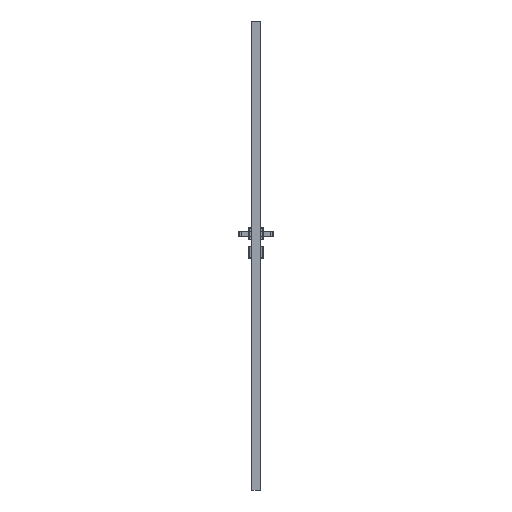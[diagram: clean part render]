
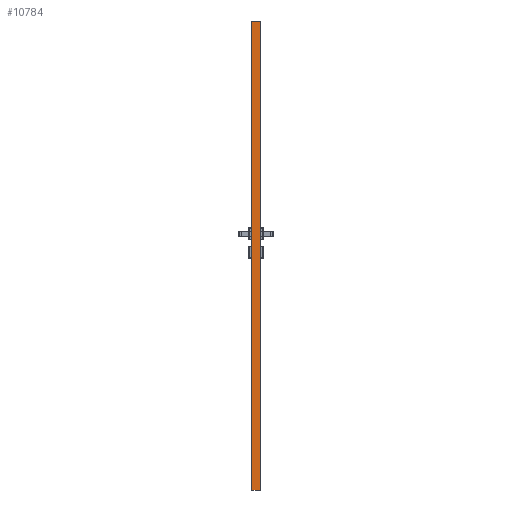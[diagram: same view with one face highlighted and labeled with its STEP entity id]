
A CAD part, left-side view. The second image highlights one B-rep face of the part: STEP entity #10784.
In plain terms, the highlighted planar face has unit normal (-1, 0, 0).
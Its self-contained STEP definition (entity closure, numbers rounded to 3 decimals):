
#6490=FACE_OUTER_BOUND('',#18509,.T.);
#10784=ADVANCED_FACE('',(#6490),#14378,.F.);
#14378=PLANE('',#75180);
#18509=EDGE_LOOP('',(#27709,#27710,#27711,#27712,#27713,#27714));
#27709=ORIENTED_EDGE('',*,*,#52300,.T.);
#27710=ORIENTED_EDGE('',*,*,#52294,.F.);
#27711=ORIENTED_EDGE('',*,*,#52080,.T.);
#27712=ORIENTED_EDGE('',*,*,#52298,.T.);
#27713=ORIENTED_EDGE('',*,*,#52301,.T.);
#27714=ORIENTED_EDGE('',*,*,#52182,.T.);
#44741=VERTEX_POINT('',#109086);
#44742=VERTEX_POINT('',#109088);
#44792=VERTEX_POINT('',#109569);
#44793=VERTEX_POINT('',#109571);
#44832=VERTEX_POINT('',#110090);
#44834=VERTEX_POINT('',#110096);
#52080=EDGE_CURVE('',#44742,#44741,#61622,.T.);
#52182=EDGE_CURVE('',#44793,#44792,#61680,.T.);
#52294=EDGE_CURVE('',#44742,#44832,#61728,.T.);
#52298=EDGE_CURVE('',#44741,#44834,#61732,.T.);
#52300=EDGE_CURVE('',#44792,#44832,#61734,.T.);
#52301=EDGE_CURVE('',#44834,#44793,#61735,.T.);
#61622=LINE('',#109087,#68468);
#61680=LINE('',#109570,#68526);
#61728=LINE('',#110089,#68574);
#61732=LINE('',#110098,#68578);
#61734=LINE('',#110101,#68580);
#61735=LINE('',#110102,#68581);
#68468=VECTOR('',#83259,1.);
#68526=VECTOR('',#83413,1.);
#68574=VECTOR('',#83593,1.);
#68578=VECTOR('',#83599,1.);
#68580=VECTOR('',#83603,1.);
#68581=VECTOR('',#83604,1.);
#75180=AXIS2_PLACEMENT_3D('',#110103,#83605,#83606);
#83259=DIRECTION('',(0.,1.,0.));
#83413=DIRECTION('',(0.,-1.,0.));
#83593=DIRECTION('',(0.,0.,-1.));
#83599=DIRECTION('',(0.,0.,-1.));
#83603=DIRECTION('',(0.,-0.894,0.447));
#83604=DIRECTION('',(0.,-0.894,-0.447));
#83605=DIRECTION('',(1.,0.,0.));
#83606=DIRECTION('',(0.,0.,-1.));
#109086=CARTESIAN_POINT('',(-309.,0.,2017.));
#109087=CARTESIAN_POINT('',(-309.,-40.,2017.));
#109088=CARTESIAN_POINT('',(-309.,-40.,2017.));
#109569=CARTESIAN_POINT('',(-309.,-38.,0.));
#109570=CARTESIAN_POINT('',(-309.,0.,0.));
#109571=CARTESIAN_POINT('',(-309.,-2.,0.));
#110089=CARTESIAN_POINT('',(-309.,-40.,2250.));
#110090=CARTESIAN_POINT('',(-309.,-40.,1.));
#110096=CARTESIAN_POINT('',(-309.,0.,1.));
#110098=CARTESIAN_POINT('',(-309.,0.,2250.));
#110101=CARTESIAN_POINT('',(-309.,-38.,0.));
#110102=CARTESIAN_POINT('',(-309.,0.,1.));
#110103=CARTESIAN_POINT('',(-309.,0.,2250.));
